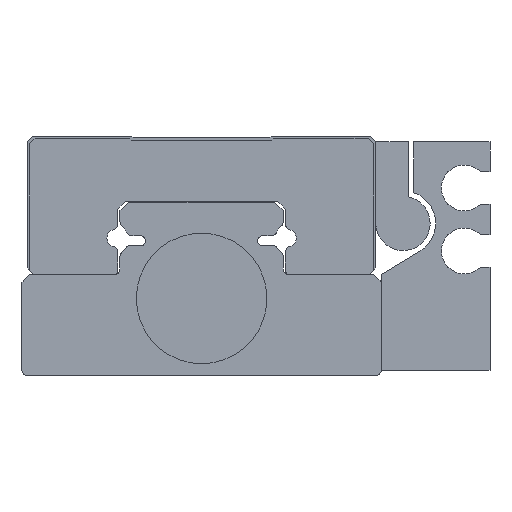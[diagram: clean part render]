
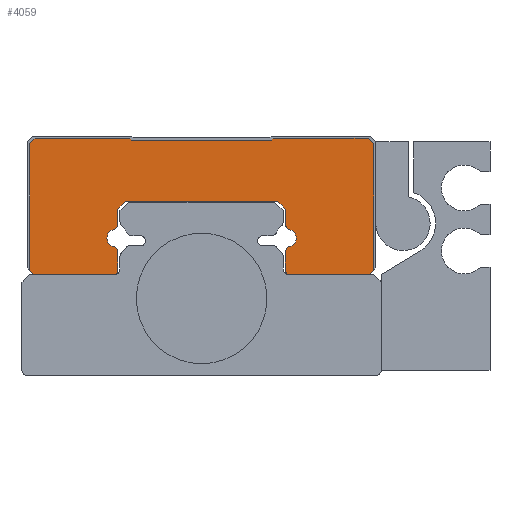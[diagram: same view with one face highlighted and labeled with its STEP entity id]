
A CAD part, front view. The second image highlights one B-rep face of the part: STEP entity #4059.
In plain terms, the highlighted planar face has unit normal (0, -1, 0).
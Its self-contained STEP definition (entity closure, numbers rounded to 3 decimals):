
#277=CIRCLE('',#4521,0.5);
#279=CIRCLE('',#4527,0.5);
#287=CIRCLE('',#4538,0.5);
#288=CIRCLE('',#4539,0.8);
#289=CIRCLE('',#4540,0.5);
#290=CIRCLE('',#4541,0.5);
#291=CIRCLE('',#4542,0.8);
#292=CIRCLE('',#4543,0.5);
#1092=ORIENTED_EDGE('',*,*,#1707,.F.);
#1093=ORIENTED_EDGE('',*,*,#1796,.F.);
#1094=ORIENTED_EDGE('',*,*,#1781,.F.);
#1095=ORIENTED_EDGE('',*,*,#1777,.F.);
#1096=ORIENTED_EDGE('',*,*,#1797,.F.);
#1097=ORIENTED_EDGE('',*,*,#1798,.F.);
#1098=ORIENTED_EDGE('',*,*,#1799,.T.);
#1099=ORIENTED_EDGE('',*,*,#1800,.F.);
#1100=ORIENTED_EDGE('',*,*,#1801,.F.);
#1101=ORIENTED_EDGE('',*,*,#1774,.F.);
#1102=ORIENTED_EDGE('',*,*,#1771,.F.);
#1103=ORIENTED_EDGE('',*,*,#1767,.F.);
#1104=ORIENTED_EDGE('',*,*,#1802,.F.);
#1105=ORIENTED_EDGE('',*,*,#1803,.F.);
#1106=ORIENTED_EDGE('',*,*,#1804,.T.);
#1107=ORIENTED_EDGE('',*,*,#1805,.F.);
#1108=ORIENTED_EDGE('',*,*,#1806,.F.);
#1109=ORIENTED_EDGE('',*,*,#1764,.F.);
#1110=ORIENTED_EDGE('',*,*,#1760,.F.);
#1111=ORIENTED_EDGE('',*,*,#1807,.F.);
#1112=ORIENTED_EDGE('',*,*,#1731,.F.);
#1113=ORIENTED_EDGE('',*,*,#1728,.F.);
#1114=ORIENTED_EDGE('',*,*,#1725,.F.);
#1115=ORIENTED_EDGE('',*,*,#1722,.F.);
#1116=ORIENTED_EDGE('',*,*,#1719,.F.);
#1117=ORIENTED_EDGE('',*,*,#1716,.F.);
#1118=ORIENTED_EDGE('',*,*,#1713,.F.);
#1119=ORIENTED_EDGE('',*,*,#1710,.F.);
#1707=EDGE_CURVE('',#2154,#2152,#2478,.T.);
#1710=EDGE_CURVE('',#2152,#2156,#2481,.T.);
#1713=EDGE_CURVE('',#2156,#2158,#2484,.T.);
#1716=EDGE_CURVE('',#2158,#2160,#2487,.T.);
#1719=EDGE_CURVE('',#2160,#2162,#2490,.T.);
#1722=EDGE_CURVE('',#2162,#2164,#2493,.T.);
#1725=EDGE_CURVE('',#2164,#2166,#2496,.T.);
#1728=EDGE_CURVE('',#2166,#2168,#2499,.T.);
#1731=EDGE_CURVE('',#2168,#2170,#2502,.T.);
#1760=EDGE_CURVE('',#2191,#2192,#2531,.T.);
#1764=EDGE_CURVE('',#2192,#2195,#277,.T.);
#1767=EDGE_CURVE('',#2197,#2198,#2536,.T.);
#1771=EDGE_CURVE('',#2198,#2201,#2540,.T.);
#1774=EDGE_CURVE('',#2201,#2203,#2543,.T.);
#1777=EDGE_CURVE('',#2205,#2206,#279,.T.);
#1781=EDGE_CURVE('',#2206,#2209,#2548,.T.);
#1796=EDGE_CURVE('',#2209,#2154,#2557,.T.);
#1797=EDGE_CURVE('',#2219,#2205,#2558,.T.);
#1798=EDGE_CURVE('',#2220,#2219,#287,.T.);
#1799=EDGE_CURVE('',#2220,#2221,#288,.T.);
#1800=EDGE_CURVE('',#2222,#2221,#289,.T.);
#1801=EDGE_CURVE('',#2203,#2222,#2559,.T.);
#1802=EDGE_CURVE('',#2223,#2197,#2560,.T.);
#1803=EDGE_CURVE('',#2224,#2223,#290,.T.);
#1804=EDGE_CURVE('',#2224,#2225,#291,.T.);
#1805=EDGE_CURVE('',#2226,#2225,#292,.T.);
#1806=EDGE_CURVE('',#2195,#2226,#2561,.T.);
#1807=EDGE_CURVE('',#2170,#2191,#2562,.T.);
#2152=VERTEX_POINT('',#6644);
#2154=VERTEX_POINT('',#6648);
#2156=VERTEX_POINT('',#6653);
#2158=VERTEX_POINT('',#6659);
#2160=VERTEX_POINT('',#6665);
#2162=VERTEX_POINT('',#6671);
#2164=VERTEX_POINT('',#6677);
#2166=VERTEX_POINT('',#6683);
#2168=VERTEX_POINT('',#6689);
#2170=VERTEX_POINT('',#6695);
#2191=VERTEX_POINT('',#6757);
#2192=VERTEX_POINT('',#6758);
#2195=VERTEX_POINT('',#6766);
#2197=VERTEX_POINT('',#6772);
#2198=VERTEX_POINT('',#6773);
#2201=VERTEX_POINT('',#6781);
#2203=VERTEX_POINT('',#6787);
#2205=VERTEX_POINT('',#6793);
#2206=VERTEX_POINT('',#6794);
#2209=VERTEX_POINT('',#6802);
#2219=VERTEX_POINT('',#6830);
#2220=VERTEX_POINT('',#6832);
#2221=VERTEX_POINT('',#6834);
#2222=VERTEX_POINT('',#6836);
#2223=VERTEX_POINT('',#6839);
#2224=VERTEX_POINT('',#6841);
#2225=VERTEX_POINT('',#6843);
#2226=VERTEX_POINT('',#6845);
#2478=LINE('',#6649,#2800);
#2481=LINE('',#6655,#2803);
#2484=LINE('',#6661,#2806);
#2487=LINE('',#6667,#2809);
#2490=LINE('',#6673,#2812);
#2493=LINE('',#6679,#2815);
#2496=LINE('',#6685,#2818);
#2499=LINE('',#6691,#2821);
#2502=LINE('',#6697,#2824);
#2531=LINE('',#6756,#2853);
#2536=LINE('',#6771,#2858);
#2540=LINE('',#6780,#2862);
#2543=LINE('',#6786,#2865);
#2548=LINE('',#6801,#2870);
#2557=LINE('',#6828,#2879);
#2558=LINE('',#6829,#2880);
#2559=LINE('',#6837,#2881);
#2560=LINE('',#6838,#2882);
#2561=LINE('',#6846,#2883);
#2562=LINE('',#6847,#2884);
#2800=VECTOR('',#5452,1000.);
#2803=VECTOR('',#5457,1000.);
#2806=VECTOR('',#5462,1000.);
#2809=VECTOR('',#5467,1000.);
#2812=VECTOR('',#5472,1000.);
#2815=VECTOR('',#5477,1000.);
#2818=VECTOR('',#5482,1000.);
#2821=VECTOR('',#5487,1000.);
#2824=VECTOR('',#5492,1000.);
#2853=VECTOR('',#5541,1000.);
#2858=VECTOR('',#5554,1000.);
#2862=VECTOR('',#5560,1000.);
#2865=VECTOR('',#5565,1000.);
#2870=VECTOR('',#5578,1000.);
#2879=VECTOR('',#5603,1000.);
#2880=VECTOR('',#5604,1000.);
#2881=VECTOR('',#5611,1000.);
#2882=VECTOR('',#5612,1000.);
#2883=VECTOR('',#5619,1000.);
#2884=VECTOR('',#5620,1000.);
#3223=EDGE_LOOP('',(#1092,#1093,#1094,#1095,#1096,#1097,#1098,#1099,#1100,
#1101,#1102,#1103,#1104,#1105,#1106,#1107,#1108,#1109,#1110,#1111,#1112,
#1113,#1114,#1115,#1116,#1117,#1118,#1119));
#3611=FACE_BOUND('',#3223,.T.);
#3831=PLANE('',#4537);
#4059=ADVANCED_FACE('',(#3611),#3831,.F.);
#4521=AXIS2_PLACEMENT_3D('',#6765,#5547,#5548);
#4527=AXIS2_PLACEMENT_3D('',#6792,#5570,#5571);
#4537=AXIS2_PLACEMENT_3D('',#6827,#5601,#5602);
#4538=AXIS2_PLACEMENT_3D('',#6831,#5605,#5606);
#4539=AXIS2_PLACEMENT_3D('',#6833,#5607,#5608);
#4540=AXIS2_PLACEMENT_3D('',#6835,#5609,#5610);
#4541=AXIS2_PLACEMENT_3D('',#6840,#5613,#5614);
#4542=AXIS2_PLACEMENT_3D('',#6842,#5615,#5616);
#4543=AXIS2_PLACEMENT_3D('',#6844,#5617,#5618);
#5452=DIRECTION('',(0.,0.,1.));
#5457=DIRECTION('',(0.707,0.,0.707));
#5462=DIRECTION('',(1.,0.,0.));
#5467=DIRECTION('',(0.707,0.,-0.707));
#5472=DIRECTION('',(1.,0.,0.));
#5477=DIRECTION('',(0.707,0.,0.707));
#5482=DIRECTION('',(1.,0.,0.));
#5487=DIRECTION('',(0.707,0.,-0.707));
#5492=DIRECTION('',(0.,0.,-1.));
#5541=DIRECTION('',(-1.,0.,0.));
#5547=DIRECTION('',(0.,1.,0.));
#5548=DIRECTION('',(1.,0.,0.));
#5554=DIRECTION('',(-0.707,0.,0.707));
#5560=DIRECTION('',(-1.,0.,0.));
#5565=DIRECTION('',(-0.707,0.,-0.707));
#5570=DIRECTION('',(0.,1.,0.));
#5571=DIRECTION('',(1.,0.,0.));
#5578=DIRECTION('',(-1.,0.,0.));
#5601=DIRECTION('',(0.,1.,0.));
#5602=DIRECTION('',(0.,0.,1.));
#5603=DIRECTION('',(-0.707,0.,0.707));
#5604=DIRECTION('',(0.,0.,-1.));
#5605=DIRECTION('',(0.,1.,0.));
#5606=DIRECTION('',(1.,0.,0.));
#5607=DIRECTION('',(0.,1.,0.));
#5608=DIRECTION('',(1.,0.,0.));
#5609=DIRECTION('',(0.,1.,0.));
#5610=DIRECTION('',(1.,0.,0.));
#5611=DIRECTION('',(0.,0.,-1.));
#5612=DIRECTION('',(0.,0.,1.));
#5613=DIRECTION('',(0.,1.,0.));
#5614=DIRECTION('',(1.,0.,0.));
#5615=DIRECTION('',(0.,1.,0.));
#5616=DIRECTION('',(1.,0.,0.));
#5617=DIRECTION('',(0.,1.,0.));
#5618=DIRECTION('',(1.,0.,0.));
#5619=DIRECTION('',(0.,0.,1.));
#5620=DIRECTION('',(-0.707,0.,-0.707));
#6644=CARTESIAN_POINT('',(-15.8,21.5,21.3));
#6648=CARTESIAN_POINT('',(-15.8,21.5,9.7));
#6649=CARTESIAN_POINT('',(-15.8,21.5,9.7));
#6653=CARTESIAN_POINT('',(-15.3,21.5,21.8));
#6655=CARTESIAN_POINT('',(-15.8,21.5,21.3));
#6659=CARTESIAN_POINT('',(-6.6,21.5,21.8));
#6661=CARTESIAN_POINT('',(-15.3,21.5,21.8));
#6665=CARTESIAN_POINT('',(-6.45,21.5,21.65));
#6667=CARTESIAN_POINT('',(-6.6,21.5,21.8));
#6671=CARTESIAN_POINT('',(6.45,21.5,21.65));
#6673=CARTESIAN_POINT('',(-6.45,21.5,21.65));
#6677=CARTESIAN_POINT('',(6.6,21.5,21.8));
#6679=CARTESIAN_POINT('',(6.45,21.5,21.65));
#6683=CARTESIAN_POINT('',(15.3,21.5,21.8));
#6685=CARTESIAN_POINT('',(6.6,21.5,21.8));
#6689=CARTESIAN_POINT('',(15.8,21.5,21.3));
#6691=CARTESIAN_POINT('',(15.3,21.5,21.8));
#6695=CARTESIAN_POINT('',(15.8,21.5,9.7));
#6697=CARTESIAN_POINT('',(15.8,21.5,21.3));
#6756=CARTESIAN_POINT('',(15.3,21.5,9.2));
#6757=CARTESIAN_POINT('',(15.3,21.5,9.2));
#6758=CARTESIAN_POINT('',(8.2,21.5,9.2));
#6765=CARTESIAN_POINT('',(8.2,21.5,9.7));
#6766=CARTESIAN_POINT('',(7.7,21.5,9.7));
#6771=CARTESIAN_POINT('',(7.7,21.5,15.3));
#6772=CARTESIAN_POINT('',(7.7,21.5,15.3));
#6773=CARTESIAN_POINT('',(7.,21.5,16.));
#6780=CARTESIAN_POINT('',(7.,21.5,16.));
#6781=CARTESIAN_POINT('',(-7.,21.5,16.));
#6786=CARTESIAN_POINT('',(-7.,21.5,16.));
#6787=CARTESIAN_POINT('',(-7.7,21.5,15.3));
#6792=CARTESIAN_POINT('',(-8.2,21.5,9.7));
#6793=CARTESIAN_POINT('',(-7.7,21.5,9.7));
#6794=CARTESIAN_POINT('',(-8.2,21.5,9.2));
#6801=CARTESIAN_POINT('',(-8.2,21.5,9.2));
#6802=CARTESIAN_POINT('',(-15.3,21.5,9.2));
#6827=CARTESIAN_POINT('',(8.2,21.5,9.7));
#6828=CARTESIAN_POINT('',(-15.3,21.5,9.2));
#6829=CARTESIAN_POINT('',(-7.7,21.5,11.385));
#6830=CARTESIAN_POINT('',(-7.7,21.5,11.385));
#6831=CARTESIAN_POINT('',(-8.2,21.5,11.385));
#6832=CARTESIAN_POINT('',(-8.085,21.5,11.872));
#6833=CARTESIAN_POINT('',(-7.9,21.5,12.65));
#6834=CARTESIAN_POINT('',(-8.085,21.5,13.428));
#6835=CARTESIAN_POINT('',(-8.2,21.5,13.915));
#6836=CARTESIAN_POINT('',(-7.7,21.5,13.915));
#6837=CARTESIAN_POINT('',(-7.7,21.5,15.3));
#6838=CARTESIAN_POINT('',(7.7,21.5,13.915));
#6839=CARTESIAN_POINT('',(7.7,21.5,13.915));
#6840=CARTESIAN_POINT('',(8.2,21.5,13.915));
#6841=CARTESIAN_POINT('',(8.085,21.5,13.428));
#6842=CARTESIAN_POINT('',(7.9,21.5,12.65));
#6843=CARTESIAN_POINT('',(8.085,21.5,11.872));
#6844=CARTESIAN_POINT('',(8.2,21.5,11.385));
#6845=CARTESIAN_POINT('',(7.7,21.5,11.385));
#6846=CARTESIAN_POINT('',(7.7,21.5,9.7));
#6847=CARTESIAN_POINT('',(15.8,21.5,9.7));
